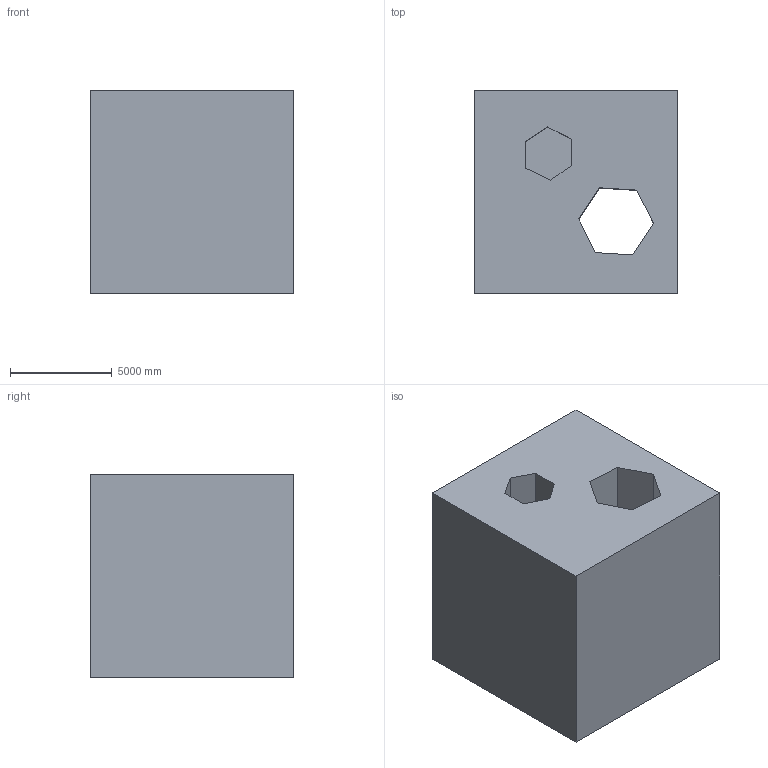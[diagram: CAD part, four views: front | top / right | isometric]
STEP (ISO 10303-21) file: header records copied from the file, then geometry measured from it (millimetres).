
FILE_DESCRIPTION (( 'STEP AP203' ), '1' );
FILE_NAME ('239.STEP', '2022-07-28T14:00:37', ( 'user' ), ( '' ), 'SwSTEP 2.0', 'SolidWorks 2021', '' );
FILE_SCHEMA (( 'CONFIG_CONTROL_DESIGN' ));
Length unit declared in the file: centimetre
Products named in the file (1): 239
Bounding box: 10000 x 10000 x 10000 mm (x, y, z)
Volume: 859752415663.6 mm3; surface area: 781388658.9 mm2
Topology: 1 solids, 1 shells, 30 faces, 78 edges, 52 vertices
Faces by surface type: plane 30
Entity records: 987 total; most frequent: CARTESIAN_POINT 161, ORIENTED_EDGE 156, DIRECTION 140, VECTOR 78, EDGE_CURVE 78, LINE 78, VERTEX_POINT 52, EDGE_LOOP 36
